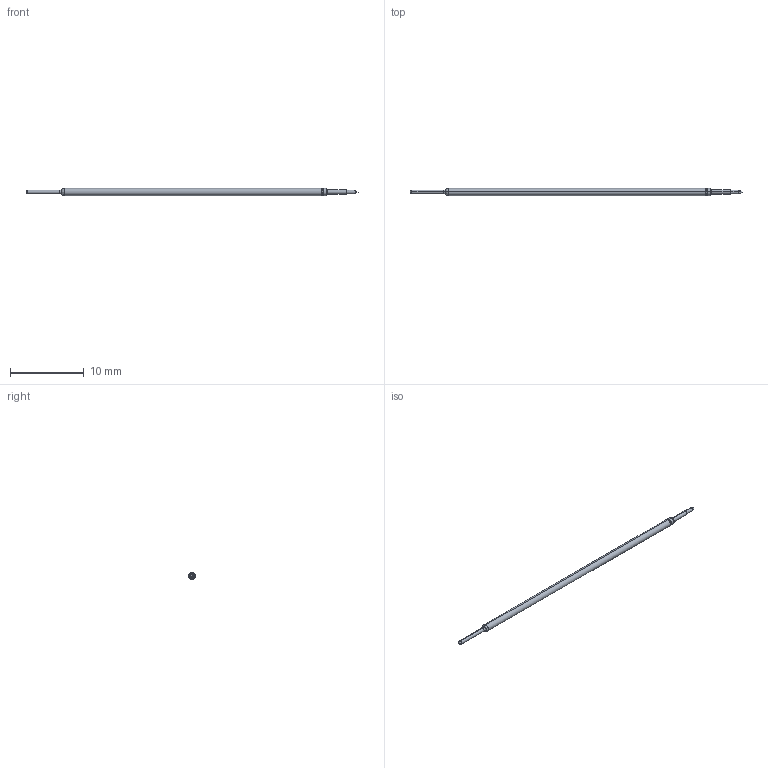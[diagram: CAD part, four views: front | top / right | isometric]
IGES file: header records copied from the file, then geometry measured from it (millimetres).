
Start section: SolidWorks IGES file using analytic representation for surfaces
Global section: file name: C:\Documents and Settings\mrumschlag\Desktop\changes\new\test\I8 RECD.IGS; native system: SolidWorks 2011; preprocessor: SolidWorks 2011; author: mrumschlag; date: 110630.142322; units: inch
Bounding box: 45.03 x 0.97 x 0.97 mm (x, y, z)
Surface area: 124.4 mm2 (no closed solid volume)
Topology: 0 solids, 0 shells, 39 faces, 206 edges, 204 vertices
Faces by surface type: bspline 21, revolution 18
